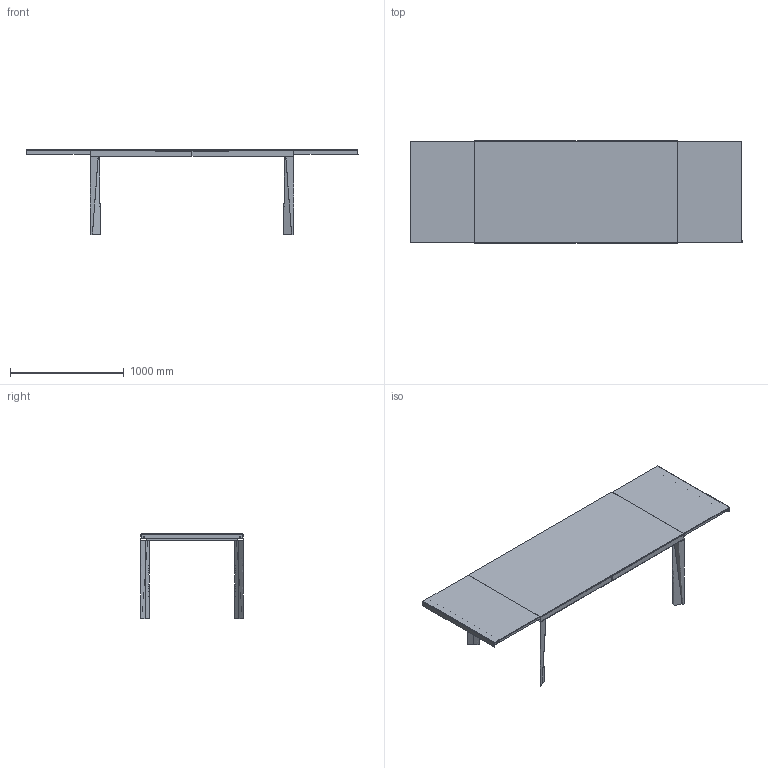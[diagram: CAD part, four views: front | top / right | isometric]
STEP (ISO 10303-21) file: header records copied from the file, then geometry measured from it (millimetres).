
FILE_DESCRIPTION(/* description */ (''),/* implementation_level */ '2;1');
FILE_NAME(/* name */ '10182 - Iceberg 180+58+58x90',/* time_stamp */ '2010-11-03T14:54:08+01:00',/* author */ (''),/* organization */ (''),/* preprocessor_version */ 'ST-DEVELOPER v10',/* originating_system */ '',/* authorisation */ '');
FILE_SCHEMA (('CONFIG_CONTROL_DESIGN'));
Length unit declared in the file: centimetre
Products named in the file (1): 1
Bounding box: 2922 x 906 x 752.51 mm (x, y, z)
Volume: 32986525.4 mm3; surface area: 7964443.8 mm2
Topology: 13 solids, 13 shells, 190 faces, 452 edges, 284 vertices
Faces by surface type: plane 170, bspline 20
Entity records: 5936 total; most frequent: CARTESIAN_POINT 2672, ORIENTED_EDGE 904, EDGE_CURVE 452, B_SPLINE_CURVE_WITH_KNOTS 420, VERTEX_POINT 284, ADVANCED_FACE 190, FACE_OUTER_BOUND 190, EDGE_LOOP 190
